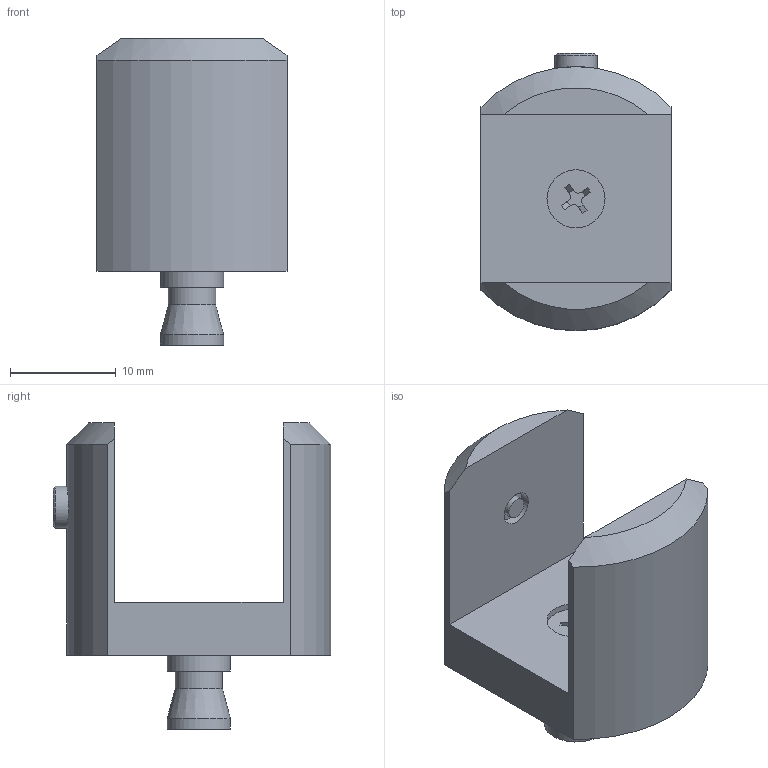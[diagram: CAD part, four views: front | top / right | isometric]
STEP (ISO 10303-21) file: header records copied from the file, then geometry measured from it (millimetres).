
FILE_DESCRIPTION(/* description */ (''),/* implementation_level */ '2;1');
FILE_NAME(/* name */ '5OM100A4-16.stp',/* time_stamp */ '2026-06-03T08:23:53+03:00',/* author */ ('dsgn33'),/* organization */ (''),/* preprocessor_version */ 'ST-DEVELOPER v20',/* originating_system */ 'Autodesk Inventor 2025',/* authorisation */ '');
FILE_SCHEMA (('AUTOMOTIVE_DESIGN { 1 0 10303 214 3 1 1 }'));
Length unit declared in the file: millimetre
Products named in the file (1): 5OM100A4-16_Simplify_1
Bounding box: 18 x 26.28 x 29 mm (x, y, z)
Volume: 4118.4 mm3; surface area: 2693.7 mm2
Topology: 1 solids, 1 shells, 57 faces, 135 edges, 89 vertices
Faces by surface type: plane 35, cylinder 15, cone 7
Full cylindrical faces by diameter (mm): 2 x1, 2.459 x1, 2.5 x1, 3.242 x1, 4 x1, 4.5 x1, 5.5 x1, 6 x2
Entity records: 1787 total; most frequent: CARTESIAN_POINT 333, DIRECTION 276, ORIENTED_EDGE 268, EDGE_CURVE 134, AXIS2_PLACEMENT_3D 94, VERTEX_POINT 89, LINE 88, VECTOR 88
